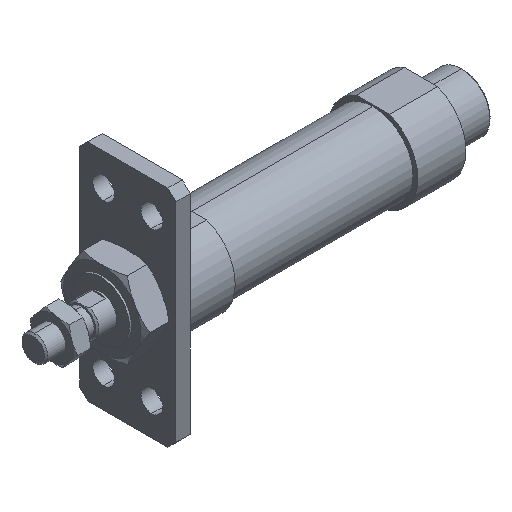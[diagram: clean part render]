
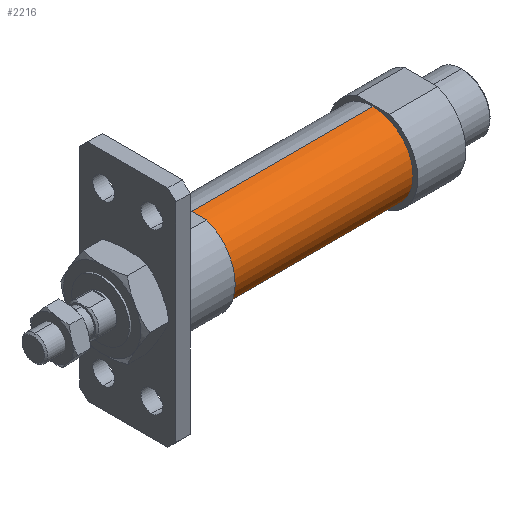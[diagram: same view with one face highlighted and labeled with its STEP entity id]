
A CAD part, isometric view. The second image highlights one B-rep face of the part: STEP entity #2216.
In plain terms, the highlighted cylindrical face has radius 12.5 mm (diameter 25 mm), a partial arc.
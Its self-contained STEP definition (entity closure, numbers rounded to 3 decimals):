
#103 = CARTESIAN_POINT ( 'NONE',  ( 106., 0., 12.5 ) ) ;
#163 = EDGE_CURVE ( 'NONE', #214, #3676, #2526, .T. ) ;
#214 = VERTEX_POINT ( 'NONE', #103 ) ;
#267 = CARTESIAN_POINT ( 'NONE',  ( 106., 0., 0. ) ) ;
#341 = EDGE_CURVE ( 'NONE', #426, #3419, #656, .T. ) ;
#408 = CARTESIAN_POINT ( 'NONE',  ( -6.469, 0., 0. ) ) ;
#426 = VERTEX_POINT ( 'NONE', #2714 ) ;
#656 = LINE ( 'NONE', #2424, #2707 ) ;
#709 = CARTESIAN_POINT ( 'NONE',  ( 49., 0., 0. ) ) ;
#779 = AXIS2_PLACEMENT_3D ( 'NONE', #267, #3595, #2860 ) ;
#789 = AXIS2_PLACEMENT_3D ( 'NONE', #709, #1318, #2891 ) ;
#997 = DIRECTION ( 'NONE',  ( -1., 0., 0. ) ) ;
#1046 = CARTESIAN_POINT ( 'NONE',  ( 49., 0., 12.5 ) ) ;
#1163 = CARTESIAN_POINT ( 'NONE',  ( 49., 0., -12.5 ) ) ;
#1318 = DIRECTION ( 'NONE',  ( -1., 0., 0. ) ) ;
#1635 = ORIENTED_EDGE ( 'NONE', *, *, #1667, .T. ) ;
#1667 = EDGE_CURVE ( 'NONE', #426, #214, #2870, .T. ) ;
#1725 = FACE_OUTER_BOUND ( 'NONE', #3747, .T. ) ;
#1863 = AXIS2_PLACEMENT_3D ( 'NONE', #408, #2670, #2794 ) ;
#2008 = CIRCLE ( 'NONE', #789, 12.5 ) ;
#2216 = ADVANCED_FACE ( 'NONE', ( #1725 ), #2294, .T. ) ;
#2254 = CARTESIAN_POINT ( 'NONE',  ( -6.469, 0., 12.5 ) ) ;
#2294 = CYLINDRICAL_SURFACE ( 'NONE', #1863, 12.5 ) ;
#2386 = ORIENTED_EDGE ( 'NONE', *, *, #3201, .F. ) ;
#2402 = DIRECTION ( 'NONE',  ( -1., 0., 0. ) ) ;
#2424 = CARTESIAN_POINT ( 'NONE',  ( -6.469, 0., -12.5 ) ) ;
#2526 = LINE ( 'NONE', #2254, #3227 ) ;
#2670 = DIRECTION ( 'NONE',  ( -1., 0., 0. ) ) ;
#2707 = VECTOR ( 'NONE', #997, 1000. ) ;
#2714 = CARTESIAN_POINT ( 'NONE',  ( 106., 0., -12.5 ) ) ;
#2794 = DIRECTION ( 'NONE',  ( 0., 0., 1. ) ) ;
#2860 = DIRECTION ( 'NONE',  ( 0., 0., 1. ) ) ;
#2870 = CIRCLE ( 'NONE', #779, 12.5 ) ;
#2891 = DIRECTION ( 'NONE',  ( 0., 0., 1. ) ) ;
#3176 = ORIENTED_EDGE ( 'NONE', *, *, #163, .T. ) ;
#3201 = EDGE_CURVE ( 'NONE', #3419, #3676, #2008, .T. ) ;
#3227 = VECTOR ( 'NONE', #2402, 1000. ) ;
#3314 = ORIENTED_EDGE ( 'NONE', *, *, #341, .F. ) ;
#3419 = VERTEX_POINT ( 'NONE', #1163 ) ;
#3595 = DIRECTION ( 'NONE',  ( -1., 0., 0. ) ) ;
#3676 = VERTEX_POINT ( 'NONE', #1046 ) ;
#3747 = EDGE_LOOP ( 'NONE', ( #3314, #1635, #3176, #2386 ) ) ;
